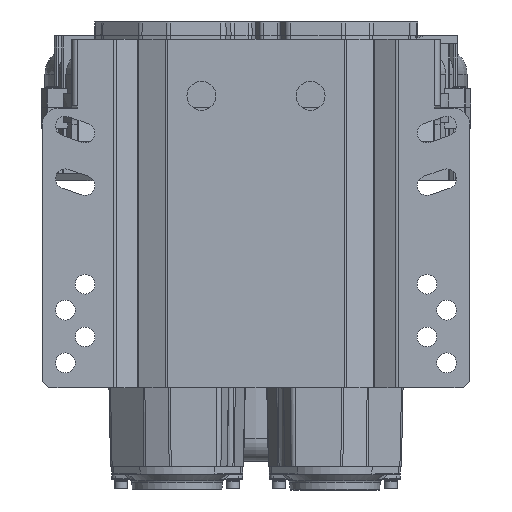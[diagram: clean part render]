
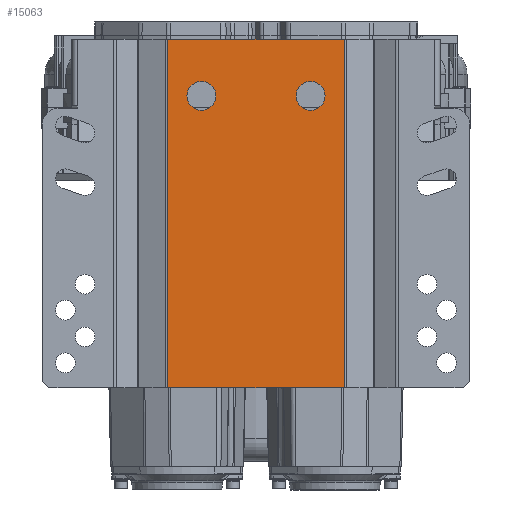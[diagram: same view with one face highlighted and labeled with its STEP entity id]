
A CAD part, front view. The second image highlights one B-rep face of the part: STEP entity #15063.
In plain terms, the highlighted planar face has unit normal (0, -1, 0).
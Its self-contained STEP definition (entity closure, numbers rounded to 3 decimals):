
#375 = DIRECTION ( 'NONE',  ( -1., 0., 0. ) ) ;
#2308 = PLANE ( 'NONE',  #40161 ) ;
#4632 = EDGE_CURVE ( 'NONE', #95868, #23960, #38773, .T. ) ;
#5845 = LINE ( 'NONE', #28604, #38293 ) ;
#11415 = EDGE_LOOP ( 'NONE', ( #33582, #64920, #13247, #67044 ) ) ;
#13211 = CARTESIAN_POINT ( 'NONE',  ( 41.5, -199., 54.9 ) ) ;
#13247 = ORIENTED_EDGE ( 'NONE', *, *, #4632, .T. ) ;
#14324 = VECTOR ( 'NONE', #24765, 1000. ) ;
#15063 = ADVANCED_FACE ( 'NONE', ( #32132, #62983, #16465 ), #2308, .T. ) ;
#15208 = VERTEX_POINT ( 'NONE', #13211 ) ;
#16465 = FACE_BOUND ( 'NONE', #27568, .T. ) ;
#16634 = VERTEX_POINT ( 'NONE', #48226 ) ;
#21752 = EDGE_CURVE ( 'NONE', #95868, #69027, #5845, .T. ) ;
#21768 = EDGE_CURVE ( 'NONE', #95166, #95166, #64166, .T. ) ;
#22057 = DIRECTION ( 'NONE',  ( 0., 0., 1. ) ) ;
#23275 = LINE ( 'NONE', #61727, #14324 ) ;
#23960 = VERTEX_POINT ( 'NONE', #68631 ) ;
#24066 = ORIENTED_EDGE ( 'NONE', *, *, #93265, .T. ) ;
#24543 = CARTESIAN_POINT ( 'NONE',  ( 67.005, -199., 86.9 ) ) ;
#24765 = DIRECTION ( 'NONE',  ( 0., 0., -1. ) ) ;
#25149 = CARTESIAN_POINT ( 'NONE',  ( 67.005, -199., -178.1 ) ) ;
#25560 = DIRECTION ( 'NONE',  ( 0., -1., 0. ) ) ;
#27568 = EDGE_LOOP ( 'NONE', ( #56215 ) ) ;
#28073 = VECTOR ( 'NONE', #31030, 1000. ) ;
#28604 = CARTESIAN_POINT ( 'NONE',  ( 67.005, -199., 86.9 ) ) ;
#29591 = DIRECTION ( 'NONE',  ( 0., 0., 1. ) ) ;
#30485 = AXIS2_PLACEMENT_3D ( 'NONE', #93339, #99464, #22057 ) ;
#31030 = DIRECTION ( 'NONE',  ( -1., 0., 0. ) ) ;
#31189 = EDGE_CURVE ( 'NONE', #69027, #16634, #44704, .T. ) ;
#32132 = FACE_BOUND ( 'NONE', #68658, .T. ) ;
#33582 = ORIENTED_EDGE ( 'NONE', *, *, #31189, .F. ) ;
#36663 = DIRECTION ( 'NONE',  ( 0., -1., 0. ) ) ;
#37938 = EDGE_CURVE ( 'NONE', #23960, #16634, #23275, .T. ) ;
#38293 = VECTOR ( 'NONE', #73265, 1000. ) ;
#38773 = LINE ( 'NONE', #69639, #63538 ) ;
#40161 = AXIS2_PLACEMENT_3D ( 'NONE', #24543, #25560, #94857 ) ;
#42387 = CARTESIAN_POINT ( 'NONE',  ( -41.5, -199., 43.9 ) ) ;
#44704 = LINE ( 'NONE', #91254, #28073 ) ;
#48226 = CARTESIAN_POINT ( 'NONE',  ( -67.005, -199., -178.1 ) ) ;
#56215 = ORIENTED_EDGE ( 'NONE', *, *, #21768, .F. ) ;
#61727 = CARTESIAN_POINT ( 'NONE',  ( -67.005, -199., 86.9 ) ) ;
#62983 = FACE_OUTER_BOUND ( 'NONE', #11415, .T. ) ;
#63538 = VECTOR ( 'NONE', #375, 1000. ) ;
#64166 = CIRCLE ( 'NONE', #70539, 11. ) ;
#64920 = ORIENTED_EDGE ( 'NONE', *, *, #21752, .F. ) ;
#67044 = ORIENTED_EDGE ( 'NONE', *, *, #37938, .T. ) ;
#68631 = CARTESIAN_POINT ( 'NONE',  ( -67.005, -199., 86.9 ) ) ;
#68658 = EDGE_LOOP ( 'NONE', ( #24066 ) ) ;
#69027 = VERTEX_POINT ( 'NONE', #25149 ) ;
#69274 = CIRCLE ( 'NONE', #30485, 11. ) ;
#69639 = CARTESIAN_POINT ( 'NONE',  ( 67.005, -199., 86.9 ) ) ;
#70539 = AXIS2_PLACEMENT_3D ( 'NONE', #42387, #36663, #29591 ) ;
#73265 = DIRECTION ( 'NONE',  ( 0., 0., -1. ) ) ;
#81519 = CARTESIAN_POINT ( 'NONE',  ( -41.5, -199., 54.9 ) ) ;
#87914 = CARTESIAN_POINT ( 'NONE',  ( 67.005, -199., 86.9 ) ) ;
#91254 = CARTESIAN_POINT ( 'NONE',  ( 67.005, -199., -178.1 ) ) ;
#93265 = EDGE_CURVE ( 'NONE', #15208, #15208, #69274, .T. ) ;
#93339 = CARTESIAN_POINT ( 'NONE',  ( 41.5, -199., 43.9 ) ) ;
#94857 = DIRECTION ( 'NONE',  ( 0., 0., 1. ) ) ;
#95166 = VERTEX_POINT ( 'NONE', #81519 ) ;
#95868 = VERTEX_POINT ( 'NONE', #87914 ) ;
#99464 = DIRECTION ( 'NONE',  ( 0., 1., 0. ) ) ;
